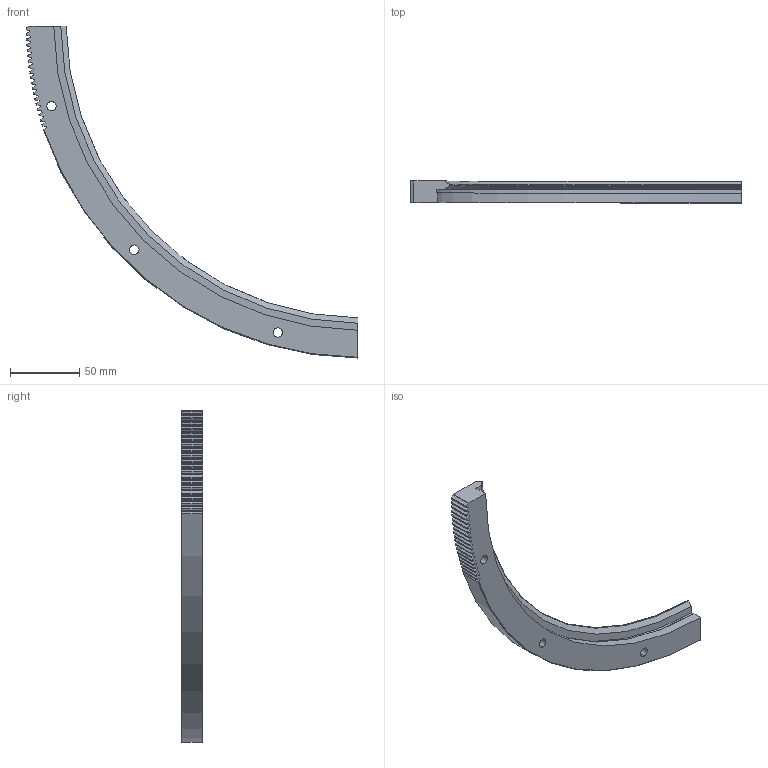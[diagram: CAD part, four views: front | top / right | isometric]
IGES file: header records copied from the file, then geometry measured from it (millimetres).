
Start section: 3D InterOp IGES (v. 2020 1.0.1), Spatial Corp. Copyright (c) 1999-2017.
Global section: file name: rim_482_r90_p.igs; native system: Spatial Corp.; preprocessor: 3D InterOp ACIS/IGES; author: TraceParts; organization: TraceParts S.A.; date: 20220624.062706; units: millimetre
Bounding box: 239.23 x 15.5 x 239.24 mm (x, y, z)
Surface area: 33071.1 mm2 (no closed solid volume)
Topology: 0 solids, 0 shells, 164 faces, 954 edges, 954 vertices
Faces by surface type: extrusion 105, revolution 59
